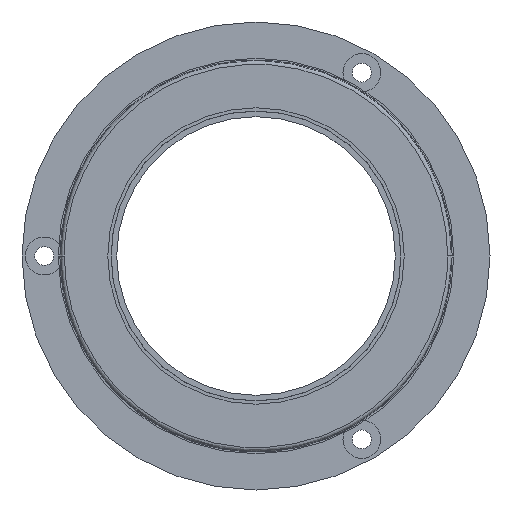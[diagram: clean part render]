
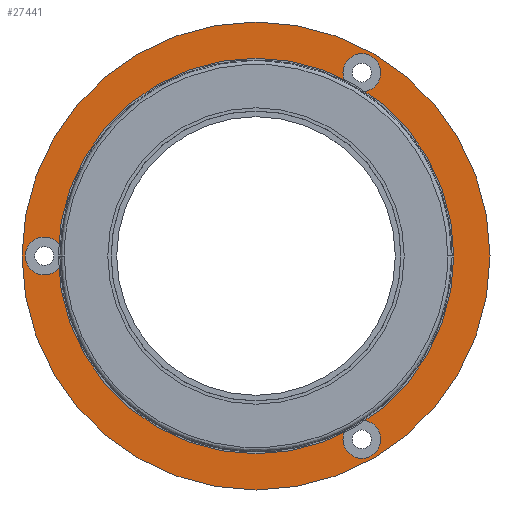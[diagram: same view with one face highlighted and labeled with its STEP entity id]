
A CAD part, left-side view. The second image highlights one B-rep face of the part: STEP entity #27441.
In plain terms, the highlighted planar face has unit normal (-1, 0, 0).
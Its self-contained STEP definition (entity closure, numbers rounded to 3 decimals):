
#358 = AXIS2_PLACEMENT_3D ( 'NONE', #6868, #44990, #33570 ) ;
#483 = EDGE_LOOP ( 'NONE', ( #60701, #62492 ) ) ;
#698 = FACE_BOUND ( 'NONE', #21946, .T. ) ;
#877 = VERTEX_POINT ( 'NONE', #50038 ) ;
#1401 = DIRECTION ( 'NONE',  ( 0., -1., 0. ) ) ;
#3040 = CIRCLE ( 'NONE', #41662, 1.7 ) ;
#4089 = AXIS2_PLACEMENT_3D ( 'NONE', #22659, #11673, #21711 ) ;
#4281 = CIRCLE ( 'NONE', #9143, 1.7 ) ;
#4351 = CARTESIAN_POINT ( 'NONE',  ( 2.8, 17.3, 0. ) ) ;
#4625 = CIRCLE ( 'NONE', #60607, 15. ) ;
#6533 = CARTESIAN_POINT ( 'NONE',  ( 2.8, 0., 0. ) ) ;
#6680 = VERTEX_POINT ( 'NONE', #30900 ) ;
#6868 = CARTESIAN_POINT ( 'NONE',  ( 2.8, -9.5, -16.454 ) ) ;
#7318 = ORIENTED_EDGE ( 'NONE', *, *, #26670, .T. ) ;
#7864 = VERTEX_POINT ( 'NONE', #52990 ) ;
#7886 = CARTESIAN_POINT ( 'NONE',  ( 2.8, -9.5, 16.454 ) ) ;
#8798 = VERTEX_POINT ( 'NONE', #23433 ) ;
#8853 = DIRECTION ( 'NONE',  ( 0., -1., 0. ) ) ;
#9143 = AXIS2_PLACEMENT_3D ( 'NONE', #7886, #13366, #13133 ) ;
#9383 = AXIS2_PLACEMENT_3D ( 'NONE', #55211, #66436, #1401 ) ;
#10988 = CARTESIAN_POINT ( 'NONE',  ( 2.8, 0., 0. ) ) ;
#11431 = EDGE_CURVE ( 'NONE', #52838, #7864, #70548, .T. ) ;
#11520 = CIRCLE ( 'NONE', #21064, 1.7 ) ;
#11569 = CARTESIAN_POINT ( 'NONE',  ( 2.8, -11.2, 16.454 ) ) ;
#11673 = DIRECTION ( 'NONE',  ( -1., 0., 0. ) ) ;
#11841 = DIRECTION ( 'NONE',  ( -1., 0., 0. ) ) ;
#13133 = DIRECTION ( 'NONE',  ( 0., -1., 0. ) ) ;
#13366 = DIRECTION ( 'NONE',  ( 1., 0., 0. ) ) ;
#13380 = AXIS2_PLACEMENT_3D ( 'NONE', #41847, #30187, #47094 ) ;
#13504 = ORIENTED_EDGE ( 'NONE', *, *, #58376, .T. ) ;
#15064 = EDGE_CURVE ( 'NONE', #47394, #18245, #23625, .T. ) ;
#15795 = EDGE_CURVE ( 'NONE', #8798, #67867, #19272, .T. ) ;
#16016 = EDGE_CURVE ( 'NONE', #57800, #877, #3040, .T. ) ;
#16142 = CARTESIAN_POINT ( 'NONE',  ( 2.8, -21., 0. ) ) ;
#16284 = AXIS2_PLACEMENT_3D ( 'NONE', #54653, #22519, #60380 ) ;
#17947 = DIRECTION ( 'NONE',  ( 0., 1., 0. ) ) ;
#18245 = VERTEX_POINT ( 'NONE', #33270 ) ;
#19272 = CIRCLE ( 'NONE', #65861, 15. ) ;
#21064 = AXIS2_PLACEMENT_3D ( 'NONE', #53494, #48513, #26371 ) ;
#21711 = DIRECTION ( 'NONE',  ( 0., 1., 0. ) ) ;
#21946 = EDGE_LOOP ( 'NONE', ( #49845, #70142 ) ) ;
#22519 = DIRECTION ( 'NONE',  ( -1., 0., 0. ) ) ;
#22659 = CARTESIAN_POINT ( 'NONE',  ( 2.8, 0., 0. ) ) ;
#23433 = CARTESIAN_POINT ( 'NONE',  ( 2.8, -15., 0. ) ) ;
#23625 = CIRCLE ( 'NONE', #13380, 1.7 ) ;
#24749 = AXIS2_PLACEMENT_3D ( 'NONE', #50695, #11841, #45446 ) ;
#26288 = FACE_OUTER_BOUND ( 'NONE', #483, .T. ) ;
#26371 = DIRECTION ( 'NONE',  ( 0., -1., 0. ) ) ;
#26613 = EDGE_CURVE ( 'NONE', #41918, #6680, #43431, .T. ) ;
#26670 = EDGE_CURVE ( 'NONE', #18245, #47394, #62161, .T. ) ;
#26762 = DIRECTION ( 'NONE',  ( 0., 1., 0. ) ) ;
#27441 = ADVANCED_FACE ( 'NONE', ( #26288, #43289, #28805, #29707, #698 ), #54424, .T. ) ;
#28805 = FACE_BOUND ( 'NONE', #29870, .T. ) ;
#29707 = FACE_BOUND ( 'NONE', #53149, .T. ) ;
#29765 = CARTESIAN_POINT ( 'NONE',  ( 2.8, -7.8, -16.454 ) ) ;
#29870 = EDGE_LOOP ( 'NONE', ( #37935, #13504 ) ) ;
#30187 = DIRECTION ( 'NONE',  ( 1., 0., 0. ) ) ;
#30900 = CARTESIAN_POINT ( 'NONE',  ( 2.8, -7.8, 16.454 ) ) ;
#33270 = CARTESIAN_POINT ( 'NONE',  ( 2.8, -11.2, -16.454 ) ) ;
#33570 = DIRECTION ( 'NONE',  ( 0., -1., 0. ) ) ;
#33819 = CARTESIAN_POINT ( 'NONE',  ( 2.8, 15., 0. ) ) ;
#37935 = ORIENTED_EDGE ( 'NONE', *, *, #26613, .T. ) ;
#41662 = AXIS2_PLACEMENT_3D ( 'NONE', #52469, #47490, #8853 ) ;
#41847 = CARTESIAN_POINT ( 'NONE',  ( 2.8, -9.5, -16.454 ) ) ;
#41918 = VERTEX_POINT ( 'NONE', #11569 ) ;
#43289 = FACE_BOUND ( 'NONE', #56117, .T. ) ;
#43431 = CIRCLE ( 'NONE', #9383, 1.7 ) ;
#44990 = DIRECTION ( 'NONE',  ( 1., 0., 0. ) ) ;
#45446 = DIRECTION ( 'NONE',  ( 0., 1., 0. ) ) ;
#45481 = EDGE_CURVE ( 'NONE', #877, #57800, #11520, .T. ) ;
#47094 = DIRECTION ( 'NONE',  ( 0., -1., 0. ) ) ;
#47394 = VERTEX_POINT ( 'NONE', #29765 ) ;
#47490 = DIRECTION ( 'NONE',  ( 1., 0., 0. ) ) ;
#48513 = DIRECTION ( 'NONE',  ( 1., 0., 0. ) ) ;
#49845 = ORIENTED_EDGE ( 'NONE', *, *, #16016, .T. ) ;
#50038 = CARTESIAN_POINT ( 'NONE',  ( 2.8, 20.7, 0. ) ) ;
#50609 = DIRECTION ( 'NONE',  ( 1., 0., 0. ) ) ;
#50695 = CARTESIAN_POINT ( 'NONE',  ( 2.8, 0., 0. ) ) ;
#52469 = CARTESIAN_POINT ( 'NONE',  ( 2.8, 19., 0. ) ) ;
#52838 = VERTEX_POINT ( 'NONE', #16142 ) ;
#52990 = CARTESIAN_POINT ( 'NONE',  ( 2.8, 21., 0. ) ) ;
#53149 = EDGE_LOOP ( 'NONE', ( #7318, #54376 ) ) ;
#53372 = EDGE_CURVE ( 'NONE', #67867, #8798, #4625, .T. ) ;
#53494 = CARTESIAN_POINT ( 'NONE',  ( 2.8, 19., 0. ) ) ;
#54134 = DIRECTION ( 'NONE',  ( 1., 0., 0. ) ) ;
#54376 = ORIENTED_EDGE ( 'NONE', *, *, #15064, .T. ) ;
#54424 = PLANE ( 'NONE',  #16284 ) ;
#54653 = CARTESIAN_POINT ( 'NONE',  ( 2.8, 15., 0. ) ) ;
#55211 = CARTESIAN_POINT ( 'NONE',  ( 2.8, -9.5, 16.454 ) ) ;
#56117 = EDGE_LOOP ( 'NONE', ( #69566, #70576 ) ) ;
#57800 = VERTEX_POINT ( 'NONE', #4351 ) ;
#58376 = EDGE_CURVE ( 'NONE', #6680, #41918, #4281, .T. ) ;
#58888 = EDGE_CURVE ( 'NONE', #7864, #52838, #62135, .T. ) ;
#60380 = DIRECTION ( 'NONE',  ( 0., -1., 0. ) ) ;
#60607 = AXIS2_PLACEMENT_3D ( 'NONE', #10988, #54134, #26762 ) ;
#60701 = ORIENTED_EDGE ( 'NONE', *, *, #58888, .T. ) ;
#62135 = CIRCLE ( 'NONE', #24749, 21. ) ;
#62161 = CIRCLE ( 'NONE', #358, 1.7 ) ;
#62492 = ORIENTED_EDGE ( 'NONE', *, *, #11431, .T. ) ;
#65861 = AXIS2_PLACEMENT_3D ( 'NONE', #6533, #50609, #17947 ) ;
#66436 = DIRECTION ( 'NONE',  ( 1., 0., 0. ) ) ;
#67867 = VERTEX_POINT ( 'NONE', #33819 ) ;
#69566 = ORIENTED_EDGE ( 'NONE', *, *, #53372, .T. ) ;
#70142 = ORIENTED_EDGE ( 'NONE', *, *, #45481, .T. ) ;
#70548 = CIRCLE ( 'NONE', #4089, 21. ) ;
#70576 = ORIENTED_EDGE ( 'NONE', *, *, #15795, .T. ) ;
